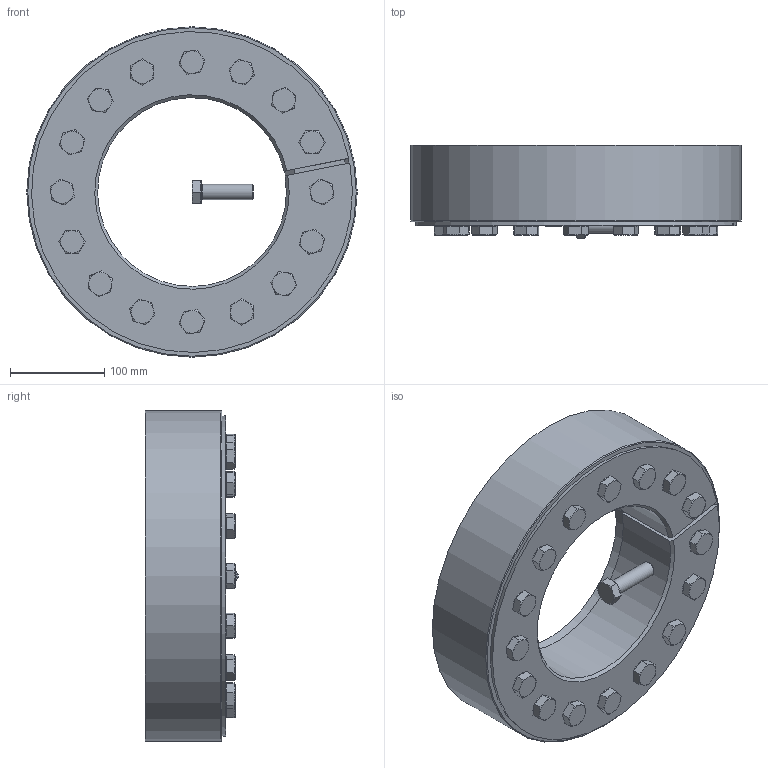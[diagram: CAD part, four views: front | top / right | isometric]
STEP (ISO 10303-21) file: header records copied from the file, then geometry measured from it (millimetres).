
FILE_DESCRIPTION( ( 'Unknown' ), '1' );
FILE_NAME( 'C:/Dokumente und Einstellungen/Sven/Desktop/homepage/cad - homepage/KBS19-1/KBS 19_1 - 200 x 350.stp', 'Unknown', ( 'Unknown' ), ( 'Unknown' ), 'XStep 1.0', 'Unknown', ' ' );
FILE_SCHEMA( ( 'automotive_design' ) );
Length unit declared in the file: millimetre
Products named in the file (3): Assem1; KBS 19_1 - 200 x 350; ISO 4017 - M16 x 55-N
Bounding box: 350 x 98.86 x 350 mm (x, y, z)
Volume: 10644724.9 mm3; surface area: 763289.1 mm2
Topology: 19 solids, 19 shells, 487 faces, 1086 edges, 654 vertices
Faces by surface type: plane 273, cone 125, cylinder 70, torus 19
Full cylindrical faces by diameter (mm): 16 x49, 24 x17, 350 x2
Entity records: 2042 total; most frequent: CARTESIAN_POINT 353, DIRECTION 304, ORIENTED_EDGE 230, AXIS2_PLACEMENT_3D 133, EDGE_CURVE 115, EDGE_LOOP 113, VERTEX_POINT 86, FACE_OUTER_BOUND 77
